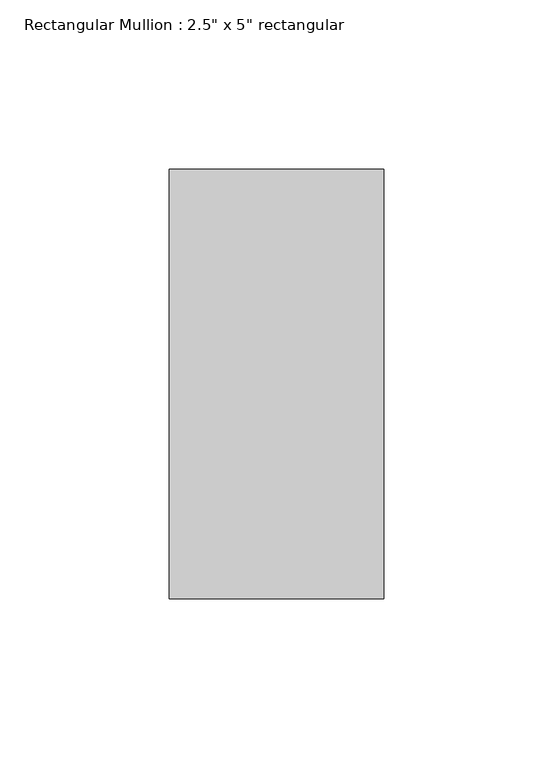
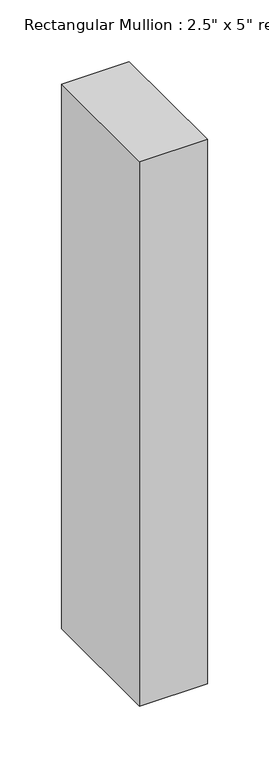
"""IFC4 building model written with IfcOpenShell, lengths in millimetres: member geometry."""

from ifc_helpers import new_model, si_unit, frame, origin, place, context, project, spatial, polyline, outline, extrude, source, transform, mapped, element, save


def member_81de2198(model_context):
    return source(origin(), model_context, "Body", "SweptSolid", [
        extrude(outline(polyline([(0.0, 63.5), (0.0, -63.5), (-63.5, -63.5), (-63.5, 63.5), (0.0, 63.5)])), frame((0.0, 0.0, -539.75), z_axis=(0.0, 0.0, 1.0), x_axis=(1.0, 0.0, 0.0)), (0.0, 0.0, 1.0), 539.75),
    ])


if __name__ == "__main__":
    model = new_model("IFC4")
    model_context = context("Model", 3, world=origin())
    ifc_project = project(units=[si_unit("LENGTHUNIT", "METRE", prefix="MILLI")], contexts=[model_context])
    site = spatial("IfcSite", under=ifc_project)
    building = spatial("IfcBuilding", under=site)
    placement = place(None, origin())
    member_shape = member_81de2198(model_context)
    element("IfcMember", 1, ObjectType="Rectangular Mullion : 2.5\" x 5\" rectangular", at=placement, inside=building, context=model_context, shape_type="MappedRepresentation", body=[
        mapped(member_shape, transform((0.0, 0.0, 0.0), x_axis=(1.0, 0.0, 0.0), y_axis=(0.0, 1.0, 0.0), z_axis=(0.0, 0.0, 1.0))),
    ])
    save(model, "model.ifc")
